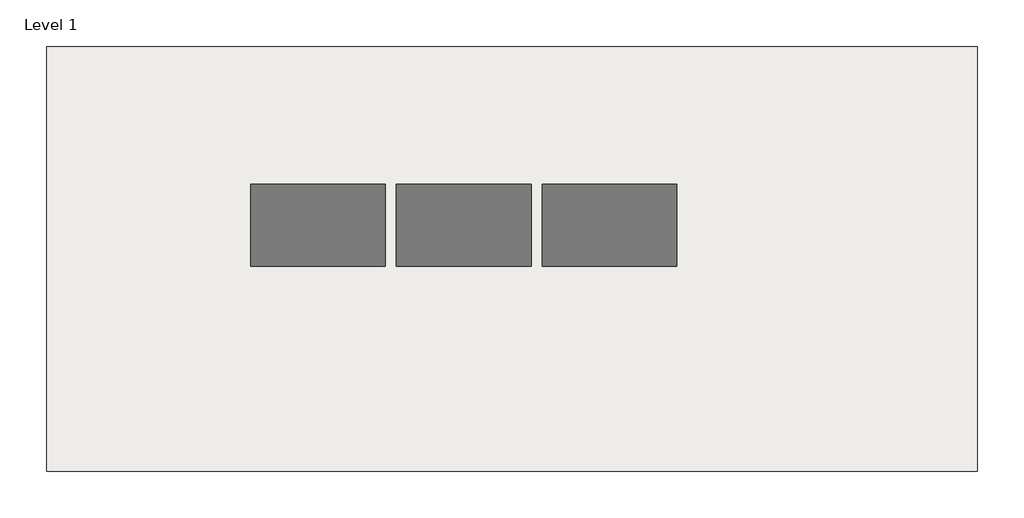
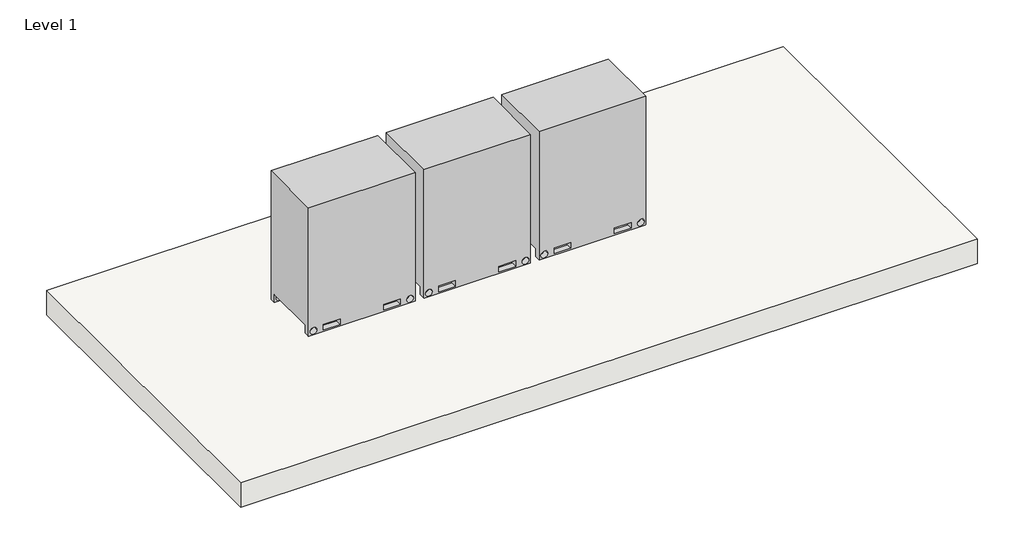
# One storey: 1 proxy, 1 slab.
"""IFC4 building model written with IfcOpenShell, lengths in millimetres."""

from ifc_helpers import new_model, si_unit, frame, origin, place, context, project, spatial, polyline, outline, extrude, transform, mapped, element, save
from components import lennox_vrf_triple_unit_vra_2p_series_265000_btu_h_b970921d

model = new_model("IFC4")

# Units and contexts
model_context = context("Model", 3, world=origin())
ifc_project = project(units=[si_unit("LENGTHUNIT", "METRE", prefix="MILLI")], contexts=[model_context])

# Site, building, storey
site = spatial("IfcSite", under=ifc_project)
building = spatial("IfcBuilding", under=site)
storey = spatial("IfcBuildingStorey", under=building, Name="Level 1", Elevation=0.0)

# Proxy
placement = place(None, origin())
lennox_vrf_triple_unit_vra_2p_series_265000_btu_h_shape = lennox_vrf_triple_unit_vra_2p_series_265000_btu_h_b970921d(model_context)
element("IfcBuildingElementProxy", 1, Name="Lennox-VRF-Triple_Unit-VRA-2P_Series : 265000 Btu/h", ObjectType="Lennox-VRF-Triple_Unit-VRA-2P_Series : 265000 Btu/h", at=placement, inside=storey, context=model_context, shape_type="MappedRepresentation", body=[
    mapped(lennox_vrf_triple_unit_vra_2p_series_265000_btu_h_shape, transform((5116.888085, 447.7335252, 0.0), x_axis=(1.0, 0.0, 0.0), y_axis=(0.0, 1.0, 0.0), z_axis=(0.0, 0.0, 1.0))),
])

# Slab
element("IfcSlab", 2, ObjectType="Generic - 12\"", at=placement, inside=storey, context=model_context, shape_type="SweptSolid", body=[
    extrude(outline(polyline([(9910.3973575, 2115.5766815), (9910.3973575, -1846.8233185), (1223.5973575, -1846.8233185), (1223.5973575, 2115.5766815), (9910.3973575, 2115.5766815)])), frame((0.0, 0.0, -304.8), z_axis=(0.0, 0.0, 1.0), x_axis=(1.0, 0.0, 0.0)), (0.0, 0.0, 1.0), 304.8),
])

save(model, "model.ifc")
